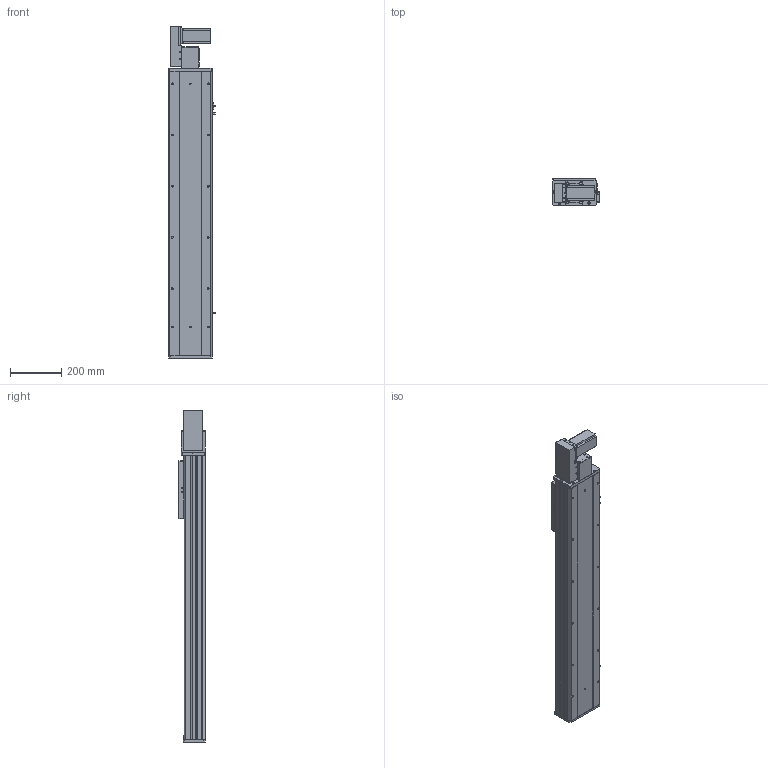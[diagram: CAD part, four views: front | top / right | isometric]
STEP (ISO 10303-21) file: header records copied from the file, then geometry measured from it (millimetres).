
FILE_DESCRIPTION (( 'STEP AP203' ), '1' );
FILE_NAME ('Y170CB-D105-S800-BL-P400W.STEP', '2020-02-20T01:12:41', ( '微软用户' ), ( '微软中国' ), 'SwSTEP 2.0', 'SolidWorks 2017', '' );
FILE_SCHEMA (( 'CONFIG_CONTROL_DESIGN' ));
Length unit declared in the file: millimetre
Products named in the file (18): 0B-萇儂楊擘啣; Y100-135俋离換覜ん--; san松下电机400不带刹车----; Y170CB-陔俋离換覜結え---; Y70俋欶BR----; 70B喘謫眊----; 70CB-耜裔啣-; 70CB-掛极-; Y1埴倛裔; 70C--詩湍揤踡え-; --70CB --喘謫眊楊擘啣-; Y170CB-D105-S800-BL-P400W; 70CB--耜裔; 70C-雄赽釱-奻-; B-源倛裔啣; 0C--雄赽釱俋欶-170; 17B-耜蚾蟀諉啣----; 70CB-詩湍--
Assembly tree (21 placements, depth 2):
  Y170CB-D105-S800-BL-P400W
    B-源倛裔啣
    17B-耜蚾蟀諉啣----
    0B-萇儂楊擘啣
    san松下电机400不带刹车----
    Y70俋欶BR----
    70CB-掛极-
    --70CB --喘謫眊楊擘啣-
    70CB-耜裔啣-  x2
    70C--詩湍揤踡え-  x2
    70CB--耜裔
    70C-雄赽釱-奻-
    0C--雄赽釱俋欶-170
    70CB-詩湍--
    Y100-135俋离換覜ん--  x3
    Y170CB-陔俋离換覜結え---
    70B喘謫眊----
    Y1埴倛裔
Bounding box: 183.5 x 107 x 1297 mm (x, y, z)
Volume: 5750171.6 mm3; surface area: 2054448.4 mm2
Topology: 21 solids, 21 shells, 999 faces, 2669 edges, 1770 vertices
Faces by surface type: cylinder 511, plane 464, cone 24
Entity records: 31736 total; most frequent: CARTESIAN_POINT 5796, DIRECTION 5158, ORIENTED_EDGE 4820, EDGE_CURVE 2410, AXIS2_PLACEMENT_3D 1884, VERTEX_POINT 1600, VECTOR 1390, LINE 1390
